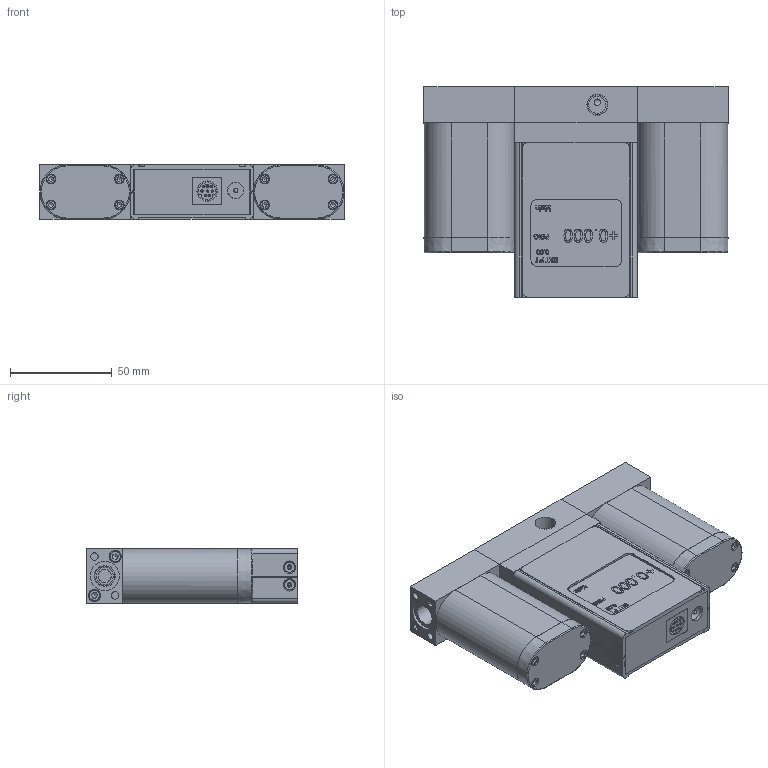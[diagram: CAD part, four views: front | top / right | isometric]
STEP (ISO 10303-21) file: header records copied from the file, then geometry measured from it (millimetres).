
FILE_DESCRIPTION(/* description */ (''),/* implementation_level */ '2;1');
FILE_NAME(/* name */ 'Z:\Models\Other\Alicat\EPR-3000_Shrinkwrap_1.stp',/* time_stamp */ '2018-04-27T11:07:58-04:00',/* author */ ('CADuser'),/* organization */ (''),/* preprocessor_version */ 'ST-DEVELOPER v16.13',/* originating_system */ 'Autodesk Inventor 2018',/* authorisation */ '');
FILE_SCHEMA (('AUTOMOTIVE_DESIGN { 1 0 10303 214 3 1 1 }'));
Length unit declared in the file: inch
Products named in the file (1): EPR-3000_Shrinkwrap_1
Bounding box: 149.22 x 103.3 x 26.67 mm (x, y, z)
Volume: 142261.9 mm3; surface area: 108109.3 mm2
Topology: 8 solids, 8 shells, 2588 faces, 6441 edges, 4067 vertices
Faces by surface type: plane 1229, cylinder 640, cone 299, bspline 287, torus 94, sphere 39
Full cylindrical faces by diameter (mm): 0.254 x4, 0.794 x8, 0.914 x1, 0.965 x24, 1.143 x5, 1.27 x2, 1.58 x1, 1.981 x1, 2 x4, 2.261 x14, 2.845 x26, 2.946 x8, 3 x16, 3.048 x1, 3.175 x2, 3.302 x2, 3.454 x2, 3.658 x4, 4.166 x2, 4.572 x2, 4.648 x14, 4.762 x1, 4.826 x1, 4.953 x8, 5.08 x10, 5.74 x4, 5.994 x16, 6.35 x6, 7.938 x2, 8.433 x5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
Entity records: 89778 total; most frequent: CARTESIAN_POINT 28756, DIRECTION 11873, ORIENTED_EDGE 11826, EDGE_CURVE 5913, AXIS2_PLACEMENT_3D 4439, VERTEX_POINT 3917, EDGE_LOOP 3250, LINE 2995
